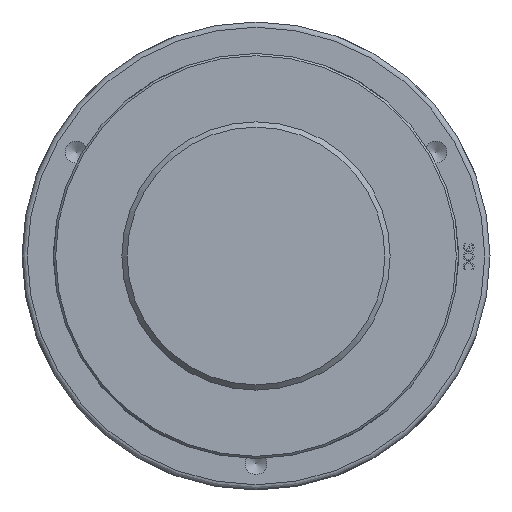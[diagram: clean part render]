
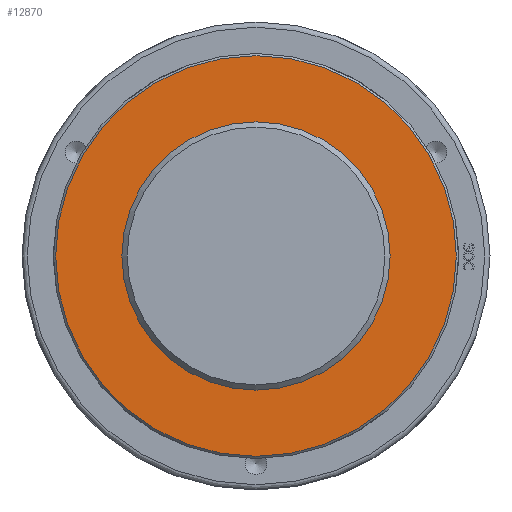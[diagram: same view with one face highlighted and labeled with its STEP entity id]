
A CAD part, front view. The second image highlights one B-rep face of the part: STEP entity #12870.
In plain terms, the highlighted planar face has unit normal (0, -1, 0) as drawn and (0, 1, 0) by its records, which use the part's own axes.
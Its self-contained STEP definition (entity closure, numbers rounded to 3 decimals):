
#90=CIRCLE('',#13529,190.5);
#92=CIRCLE('',#13533,124.253);
#169=FACE_BOUND('',#1661,.T.);
#401=PLANE('',#13532);
#890=FACE_OUTER_BOUND('',#1660,.T.);
#1660=EDGE_LOOP('',(#10170));
#1661=EDGE_LOOP('',(#10171));
#5722=VERTEX_POINT('',#19700);
#5736=VERTEX_POINT('',#19940);
#7323=EDGE_CURVE('',#5722,#5722,#90,.T.);
#7337=EDGE_CURVE('',#5736,#5736,#92,.T.);
#10170=ORIENTED_EDGE('',*,*,#7323,.F.);
#10171=ORIENTED_EDGE('',*,*,#7337,.T.);
#12870=ADVANCED_FACE('',(#890,#169),#401,.T.);
#13529=AXIS2_PLACEMENT_3D('',#19701,#14714,#14715);
#13532=AXIS2_PLACEMENT_3D('',#19939,#14720,#14721);
#13533=AXIS2_PLACEMENT_3D('',#19941,#14722,#14723);
#14714=DIRECTION('center_axis',(0.,-1.,0.));
#14715=DIRECTION('ref_axis',(1.,0.,0.));
#14720=DIRECTION('center_axis',(0.,1.,0.));
#14721=DIRECTION('ref_axis',(0.,0.,1.));
#14722=DIRECTION('center_axis',(0.,-1.,0.));
#14723=DIRECTION('ref_axis',(1.,0.,0.));
#19700=CARTESIAN_POINT('',(-190.5,125.,0.));
#19701=CARTESIAN_POINT('Origin',(0.,125.,0.));
#19939=CARTESIAN_POINT('Origin',(0.,125.,0.));
#19940=CARTESIAN_POINT('',(-124.253,125.,0.));
#19941=CARTESIAN_POINT('Origin',(0.,125.,0.));
